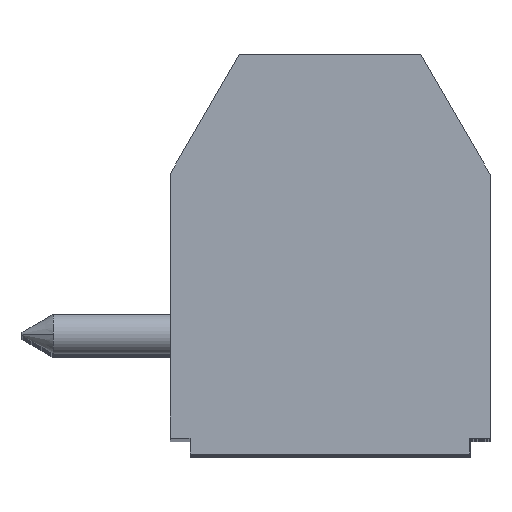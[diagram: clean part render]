
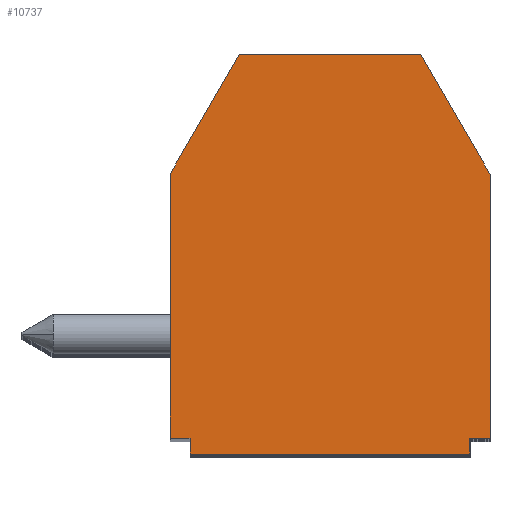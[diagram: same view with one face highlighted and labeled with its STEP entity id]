
A CAD part, top view. The second image highlights one B-rep face of the part: STEP entity #10737.
In plain terms, the highlighted planar face has unit normal (0, 0, 1).
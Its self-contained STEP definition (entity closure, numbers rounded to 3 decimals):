
#5750 = ORIENTED_EDGE ( 'NONE', *, *, #10834, .F. ) ;
#7092 = CARTESIAN_POINT ( 'NONE',  ( -3.062, -3.245, 0. ) ) ;
#7093 = CARTESIAN_POINT ( 'NONE',  ( -3.062, -2.845, 0. ) ) ;
#7095 = DIRECTION ( 'NONE',  ( 0., -1., 0. ) ) ;
#7096 = VECTOR ( 'NONE', #7095, 1000. ) ;
#7097 = CARTESIAN_POINT ( 'NONE',  ( -3.062, -3.045, 0. ) ) ;
#7099 = LINE ( 'NONE', #7097, #7096 ) ;
#8765 = EDGE_CURVE ( 'NONE', #8766, #8767, #7099, .T. ) ;
#8766 = VERTEX_POINT ( 'NONE', #7093 ) ;
#8767 = VERTEX_POINT ( 'NONE', #7092 ) ;
#8925 = CARTESIAN_POINT ( 'NONE',  ( 4.438, -2.845, 0. ) ) ;
#8927 = DIRECTION ( 'NONE',  ( 1., 0., 0. ) ) ;
#8928 = VECTOR ( 'NONE', #8927, 1000. ) ;
#8930 = CARTESIAN_POINT ( 'NONE',  ( 0.438, -2.845, 0. ) ) ;
#8931 = LINE ( 'NONE', #8930, #8928 ) ;
#9039 = DIRECTION ( 'NONE',  ( 1., 0., 0. ) ) ;
#9040 = VECTOR ( 'NONE', #9039, 1000. ) ;
#9042 = CARTESIAN_POINT ( 'NONE',  ( 0.438, -3.245, 0. ) ) ;
#9044 = LINE ( 'NONE', #9042, #9040 ) ;
#9049 = CARTESIAN_POINT ( 'NONE',  ( 3.938, -3.245, 0. ) ) ;
#9163 = DIRECTION ( 'NONE',  ( 0., 1., 0. ) ) ;
#9164 = VECTOR ( 'NONE', #9163, 1000. ) ;
#9166 = CARTESIAN_POINT ( 'NONE',  ( 3.938, 1.755, 0. ) ) ;
#9167 = LINE ( 'NONE', #9166, #9164 ) ;
#9173 = CARTESIAN_POINT ( 'NONE',  ( 3.938, -2.845, 0. ) ) ;
#9280 = DIRECTION ( 'NONE',  ( -0.5, 0.866, 0. ) ) ;
#9281 = VECTOR ( 'NONE', #9280, 1000. ) ;
#9283 = CARTESIAN_POINT ( 'NONE',  ( 4.438, 3.755, 0. ) ) ;
#9285 = LINE ( 'NONE', #9283, #9281 ) ;
#9298 = CARTESIAN_POINT ( 'NONE',  ( 4.438, 3.755, 0. ) ) ;
#9374 = CARTESIAN_POINT ( 'NONE',  ( -1.83, 6.755, 0. ) ) ;
#9397 = CARTESIAN_POINT ( 'NONE',  ( 2.706, 6.755, 0. ) ) ;
#9462 = DIRECTION ( 'NONE',  ( 0., 1., 0. ) ) ;
#9464 = VECTOR ( 'NONE', #9462, 1000. ) ;
#9465 = CARTESIAN_POINT ( 'NONE',  ( 4.438, 1.755, 0. ) ) ;
#9467 = LINE ( 'NONE', #9465, #9464 ) ;
#9507 = DIRECTION ( 'NONE',  ( -1., 0., 0. ) ) ;
#9509 = VECTOR ( 'NONE', #9507, 1000. ) ;
#9511 = CARTESIAN_POINT ( 'NONE',  ( -3.562, 6.755, 0. ) ) ;
#9512 = LINE ( 'NONE', #9511, #9509 ) ;
#9574 = EDGE_CURVE ( 'NONE', #9707, #9575, #8931, .T. ) ;
#9575 = VERTEX_POINT ( 'NONE', #8925 ) ;
#9589 = VERTEX_POINT ( 'NONE', #9049 ) ;
#9592 = EDGE_CURVE ( 'NONE', #8767, #9589, #9044, .T. ) ;
#9707 = VERTEX_POINT ( 'NONE', #9173 ) ;
#9709 = EDGE_CURVE ( 'NONE', #9589, #9707, #9167, .T. ) ;
#9958 = VERTEX_POINT ( 'NONE', #9298 ) ;
#9967 = EDGE_CURVE ( 'NONE', #9958, #9994, #9285, .T. ) ;
#9994 = VERTEX_POINT ( 'NONE', #9397 ) ;
#10002 = VERTEX_POINT ( 'NONE', #9374 ) ;
#10046 = EDGE_CURVE ( 'NONE', #9575, #9958, #9467, .T. ) ;
#10104 = EDGE_CURVE ( 'NONE', #9994, #10002, #9512, .T. ) ;
#10448 = CARTESIAN_POINT ( 'NONE',  ( -3.562, -2.845, 0. ) ) ;
#10449 = DIRECTION ( 'NONE',  ( 1., 0., 0. ) ) ;
#10451 = VECTOR ( 'NONE', #10449, 1000. ) ;
#10453 = CARTESIAN_POINT ( 'NONE',  ( -3.562, -2.845, 0. ) ) ;
#10455 = LINE ( 'NONE', #10453, #10451 ) ;
#10480 = PLANE ( 'NONE',  #10625 ) ;
#10483 = CARTESIAN_POINT ( 'NONE',  ( -3.562, -3.245, 0. ) ) ;
#10486 = FACE_OUTER_BOUND ( 'NONE', #10742, .T. ) ;
#10489 = CARTESIAN_POINT ( 'NONE',  ( -3.562, 3.755, 0. ) ) ;
#10491 = DIRECTION ( 'NONE',  ( 0.5, 0.866, 0. ) ) ;
#10492 = VECTOR ( 'NONE', #10491, 1000. ) ;
#10494 = CARTESIAN_POINT ( 'NONE',  ( -2.696, 5.255, 0. ) ) ;
#10495 = LINE ( 'NONE', #10494, #10492 ) ;
#10622 = DIRECTION ( 'NONE',  ( 1., 0., 0. ) ) ;
#10623 = DIRECTION ( 'NONE',  ( 0., 0., 1. ) ) ;
#10625 = AXIS2_PLACEMENT_3D ( 'NONE', #10483, #10623, #10622 ) ;
#10643 = EDGE_CURVE ( 'NONE', #10644, #8766, #10455, .T. ) ;
#10644 = VERTEX_POINT ( 'NONE', #10448 ) ;
#10692 = DIRECTION ( 'NONE',  ( 0., 1., 0. ) ) ;
#10695 = VECTOR ( 'NONE', #10692, 1000. ) ;
#10697 = CARTESIAN_POINT ( 'NONE',  ( -3.562, 0.455, 0. ) ) ;
#10700 = LINE ( 'NONE', #10697, #10695 ) ;
#10717 = EDGE_CURVE ( 'NONE', #10719, #10002, #10495, .T. ) ;
#10719 = VERTEX_POINT ( 'NONE', #10489 ) ;
#10737 = ADVANCED_FACE ( 'NONE', ( #10486 ), #10480, .T. ) ;
#10742 = EDGE_LOOP ( 'NONE', ( #10743, #10869, #10872, #10873, #10874, #10875, #10876, #10878, #10879, #5750 ) ) ;
#10743 = ORIENTED_EDGE ( 'NONE', *, *, #10643, .T. ) ;
#10834 = EDGE_CURVE ( 'NONE', #10644, #10719, #10700, .T. ) ;
#10869 = ORIENTED_EDGE ( 'NONE', *, *, #8765, .T. ) ;
#10872 = ORIENTED_EDGE ( 'NONE', *, *, #9592, .T. ) ;
#10873 = ORIENTED_EDGE ( 'NONE', *, *, #9709, .T. ) ;
#10874 = ORIENTED_EDGE ( 'NONE', *, *, #9574, .T. ) ;
#10875 = ORIENTED_EDGE ( 'NONE', *, *, #10046, .T. ) ;
#10876 = ORIENTED_EDGE ( 'NONE', *, *, #9967, .T. ) ;
#10878 = ORIENTED_EDGE ( 'NONE', *, *, #10104, .T. ) ;
#10879 = ORIENTED_EDGE ( 'NONE', *, *, #10717, .F. ) ;
